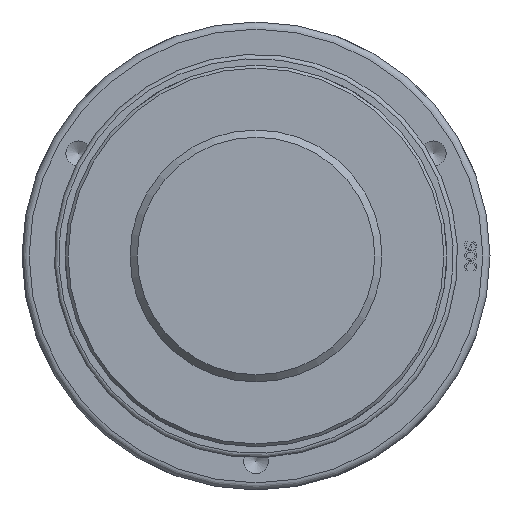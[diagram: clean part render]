
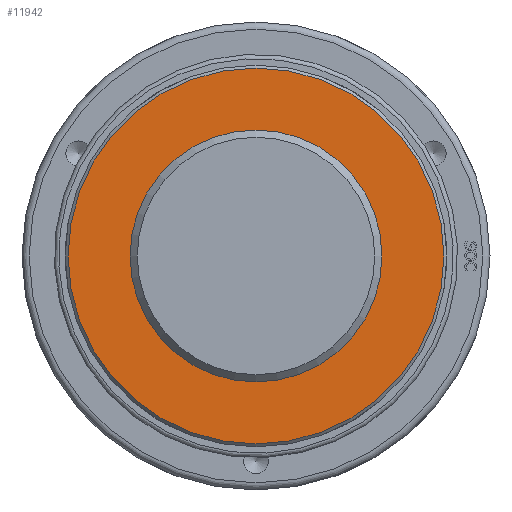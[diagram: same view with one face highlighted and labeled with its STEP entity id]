
A CAD part, front view. The second image highlights one B-rep face of the part: STEP entity #11942.
In plain terms, the highlighted planar face has unit normal (0, -1, 0) as drawn and (0, 1, 0) by its records, which use the part's own axes.
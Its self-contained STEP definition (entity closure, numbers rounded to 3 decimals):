
#90=CIRCLE('',#12585,130.5);
#92=CIRCLE('',#12589,84.253);
#167=FACE_BOUND('',#2123,.T.);
#1410=FACE_OUTER_BOUND('',#2122,.T.);
#2122=EDGE_LOOP('',(#9444));
#2123=EDGE_LOOP('',(#9445));
#5364=VERTEX_POINT('',#18142);
#5378=VERTEX_POINT('',#18382);
#6835=EDGE_CURVE('',#5364,#5364,#90,.T.);
#6849=EDGE_CURVE('',#5378,#5378,#92,.T.);
#9444=ORIENTED_EDGE('',*,*,#6835,.F.);
#9445=ORIENTED_EDGE('',*,*,#6849,.T.);
#11469=PLANE('',#12588);
#11942=ADVANCED_FACE('',(#1410,#167),#11469,.T.);
#12585=AXIS2_PLACEMENT_3D('',#18143,#13808,#13809);
#12588=AXIS2_PLACEMENT_3D('',#18381,#13814,#13815);
#12589=AXIS2_PLACEMENT_3D('',#18383,#13816,#13817);
#13808=DIRECTION('center_axis',(0.,-1.,0.));
#13809=DIRECTION('ref_axis',(1.,0.,0.));
#13814=DIRECTION('center_axis',(0.,1.,0.));
#13815=DIRECTION('ref_axis',(0.,0.,1.));
#13816=DIRECTION('center_axis',(0.,-1.,0.));
#13817=DIRECTION('ref_axis',(1.,0.,0.));
#18142=CARTESIAN_POINT('',(-130.5,87.5,0.));
#18143=CARTESIAN_POINT('Origin',(0.,87.5,0.));
#18381=CARTESIAN_POINT('Origin',(0.,87.5,0.));
#18382=CARTESIAN_POINT('',(-84.253,87.5,0.));
#18383=CARTESIAN_POINT('Origin',(0.,87.5,0.));
